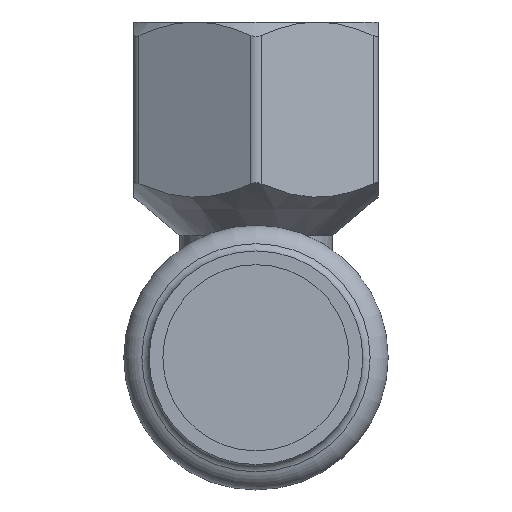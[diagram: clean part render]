
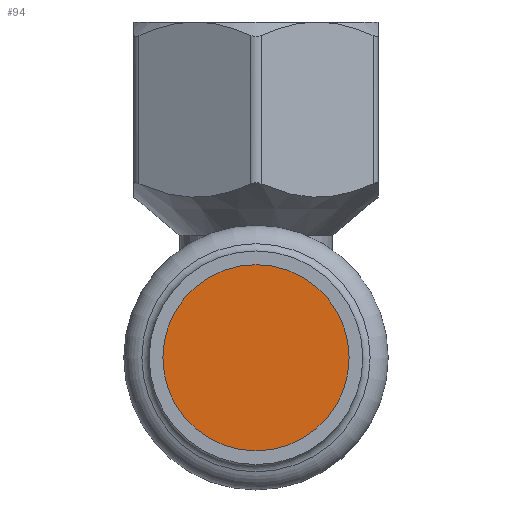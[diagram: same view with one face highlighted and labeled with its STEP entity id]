
A CAD part, front view. The second image highlights one B-rep face of the part: STEP entity #94.
In plain terms, the highlighted planar face has unit normal (0, -1, 0).
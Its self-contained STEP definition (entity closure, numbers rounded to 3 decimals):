
#94=ADVANCED_FACE('',(#429),#431,.T.);
#429=FACE_BOUND('',#430,.T.);
#430=EDGE_LOOP('',(#589));
#431=PLANE('',#432);
#432=AXIS2_PLACEMENT_3D('',#433,#434,#435);
#433=CARTESIAN_POINT('',(0.,-37.354,0.));
#434=DIRECTION('',(0.,-1.,0.));
#435=DIRECTION('',(0.,0.,-1.));
#589=ORIENTED_EDGE('',*,*,#663,.T.);
#663=EDGE_CURVE('',#791,#791,#792,.F.);
#791=VERTEX_POINT('',#2247);
#792=CIRCLE('',#2248,9.15);
#2247=CARTESIAN_POINT('',(0.,-37.354,9.15));
#2248=AXIS2_PLACEMENT_3D('',#2249,#2250,#2251);
#2249=CARTESIAN_POINT('',(0.,-37.354,0.));
#2250=DIRECTION('',(0.,1.,0.));
#2251=DIRECTION('',(0.,0.,1.));
